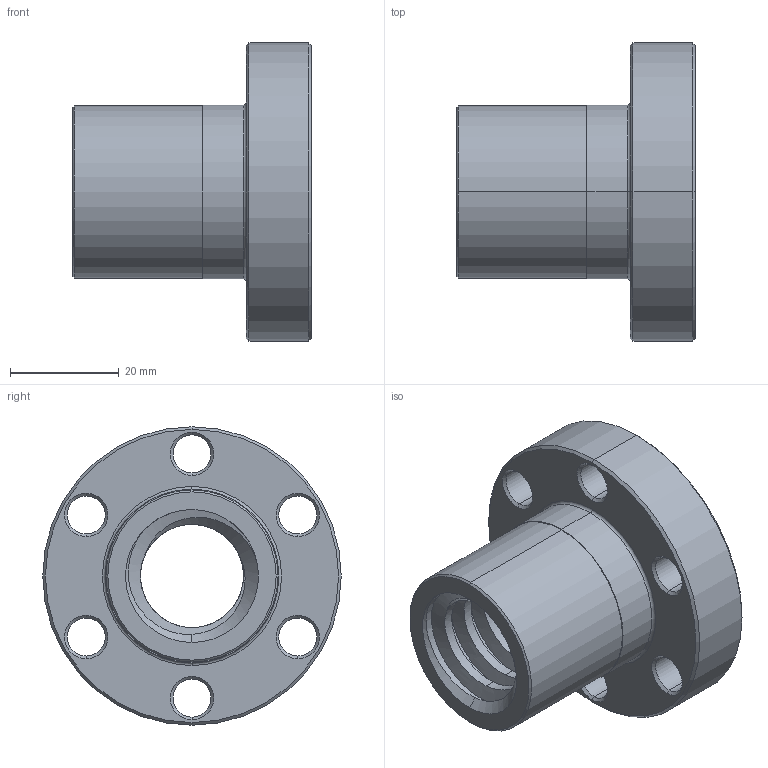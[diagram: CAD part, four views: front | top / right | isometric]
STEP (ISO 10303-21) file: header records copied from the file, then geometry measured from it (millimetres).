
FILE_DESCRIPTION((''),'2;1');
FILE_NAME('716-024-6800_PRT','2024-03-27T',('Brieden'),('ib-brieden'),'PRO/ENGINEER BY PARAMETRIC TECHNOLOGY CORPORATION, 2010160','PRO/ENGINEER BY PARAMETRIC TECHNOLOGY CORPORATION, 2010160','');
FILE_SCHEMA(('AUTOMOTIVE_DESIGN { 1 0 10303 214 1 1 1 1 }'));
Length unit declared in the file: millimetre
Products named in the file (1): 716-024-6800_PRT
Bounding box: 44 x 55 x 55 mm (x, y, z)
Volume: 34360.7 mm3; surface area: 15474.4 mm2
Topology: 1 solids, 1 shells, 83 faces, 197 edges, 118 vertices
Faces by surface type: cone 34, cylinder 34, bspline 9, plane 4, torus 2
Entity records: 5590 total; most frequent: CARTESIAN_POINT 3658, ORIENTED_EDGE 394, DIRECTION 373, EDGE_CURVE 197, AXIS2_PLACEMENT_3D 151, VERTEX_POINT 118, EDGE_LOOP 99, FACE_OUTER_BOUND 83
